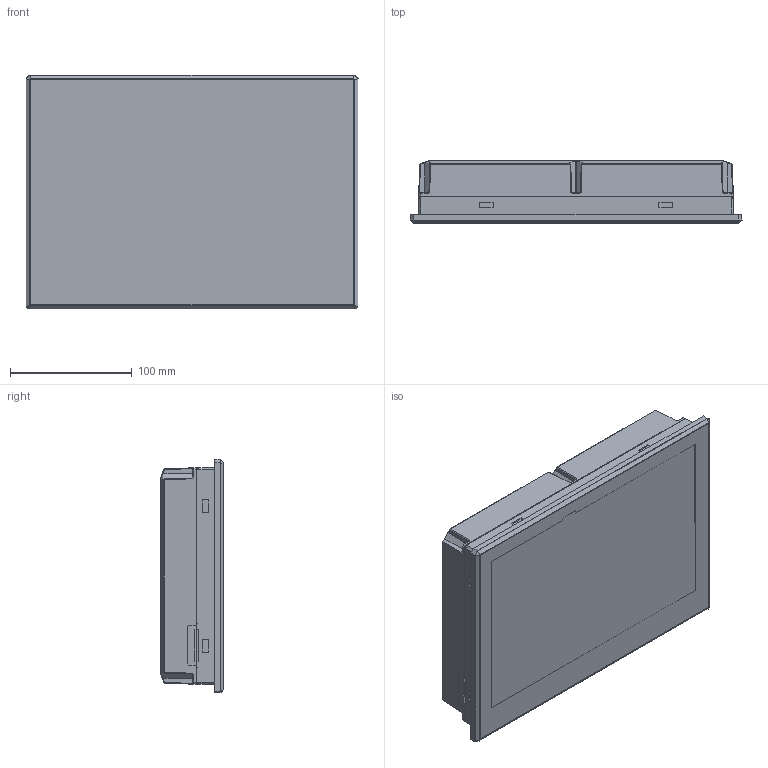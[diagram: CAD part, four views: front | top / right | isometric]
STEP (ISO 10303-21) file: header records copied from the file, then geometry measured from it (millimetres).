
FILE_DESCRIPTION(/* description */ (''),/* implementation_level */ '2;1');
FILE_NAME(/* name */ 'TGA63-ET',/* time_stamp */ '2023-04-25T19:06:16+08:00',/* author */ (''),/* organization */ (''),/* preprocessor_version */ 'ST-DEVELOPER v16.5',/* originating_system */ '',/* authorisation */ '');
FILE_SCHEMA (('AUTOMOTIVE_DESIGN'));
Products named in the file (1): Document
Bounding box: 272.2 x 51.2 x 191.68 mm (x, y, z)
Volume: 19551.9 mm3; surface area: 359405.6 mm2
Topology: 1 solids, 1159 shells, 2161 faces, 9113 edges, 8104 vertices
Faces by surface type: plane 1491, bspline 670
Entity records: 110328 total; most frequent: CARTESIAN_POINT 58165, ORIENTED_EDGE 12019, EDGE_CURVE 9093, VERTEX_POINT 8094, B_SPLINE_CURVE_WITH_KNOTS 8061, EDGE_LOOP 2232, ADVANCED_FACE 2161, FACE_OUTER_BOUND 2161
